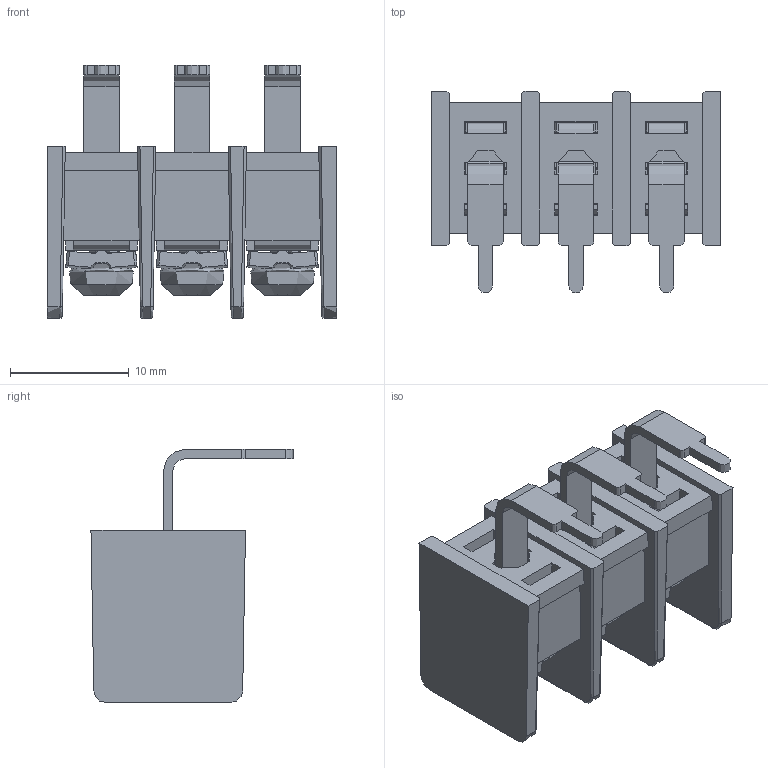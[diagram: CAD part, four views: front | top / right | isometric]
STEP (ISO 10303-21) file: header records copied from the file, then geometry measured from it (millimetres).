
FILE_DESCRIPTION((''),'2;1');
FILE_NAME('3PIN','2021-04-21T',('hanke'),(''),'CREO PARAMETRIC BY PTC INC, 2016260','CREO PARAMETRIC BY PTC INC, 2016260','');
FILE_SCHEMA(('CONFIG_CONTROL_DESIGN'));
Products named in the file (1): 3PIN
Bounding box: 24.36 x 17 x 21.3 mm (x, y, z)
Topology: 0 solids, 7 shells, 1094 faces, 3246 edges, 2100 vertices
Faces by surface type: plane 609, cylinder 254, bspline 84, torus 72, sphere 42, cone 33
Entity records: 50745 total; most frequent: CARTESIAN_POINT 22325, ORIENTED_EDGE 6504, DIRECTION 5312, EDGE_CURVE 3252, VERTEX_POINT 2106, VECTOR 1796, LINE 1796, AXIS2_PLACEMENT_3D 1758
